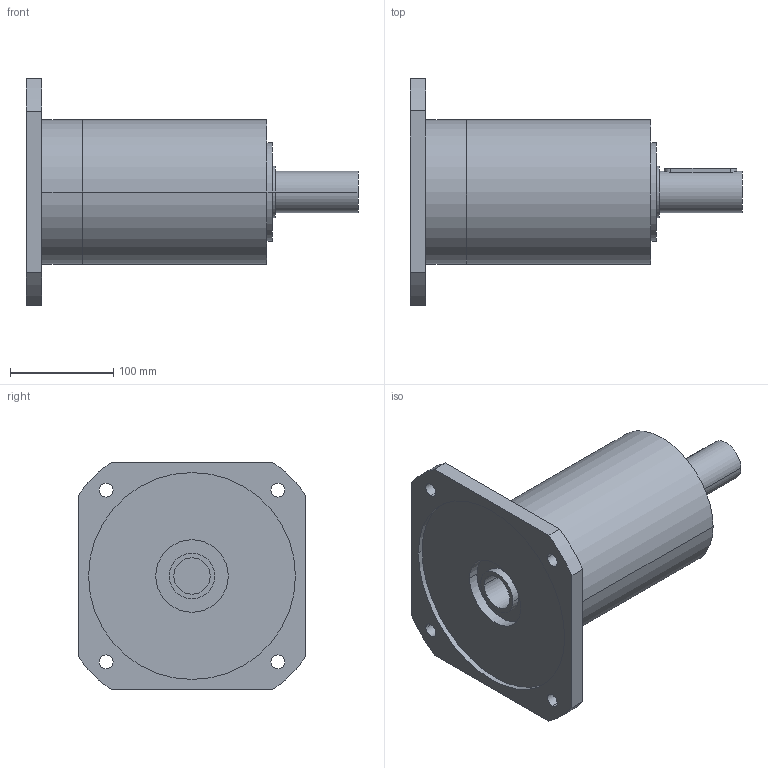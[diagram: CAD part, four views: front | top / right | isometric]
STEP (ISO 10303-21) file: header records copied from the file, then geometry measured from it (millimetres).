
FILE_DESCRIPTION(('CoCreate Modeling STEP Export'),'2;1');
FILE_NAME('GPR150_ig-9-12-16-20-28-35_40_B14_35_P12.stp','2014-08-19T17:04:20',(''),(''),'CoCreate Modeling STEP processor for AP214 (Solid Model)','CoCreate Modeling 16.00C 25-Feb-2009 (C) Parametric Technology GmbH','');
FILE_SCHEMA(('AUTOMOTIVE_DESIGN { 1 0 10303 214 1 1 1 1 }'));
Length unit declared in the file: millimetre
Products named in the file (2): GPR150_ig-9-12-16-20-28-35_40_B14_35_P12
Assembly tree (1 placements, depth 2):
  GPR150_ig-9-12-16-20-28-35_40_B14_35_P12
    GPR150_ig-9-12-16-20-28-35_40_B14_35_P12
Bounding box: 321 x 220 x 220 mm (x, y, z)
Volume: 3919373.3 mm3; surface area: 235468.4 mm2
Topology: 1 solids, 1 shells, 70 faces, 189 edges, 133 vertices
Faces by surface type: cylinder 42, plane 22, cone 6
Entity records: 1968 total; most frequent: CARTESIAN_POINT 385, ORIENTED_EDGE 374, DIRECTION 262, EDGE_CURVE 187, VERTEX_POINT 133, AXIS2_PLACEMENT_3D 98, EDGE_LOOP 92, FACE_OUTER_BOUND 70
